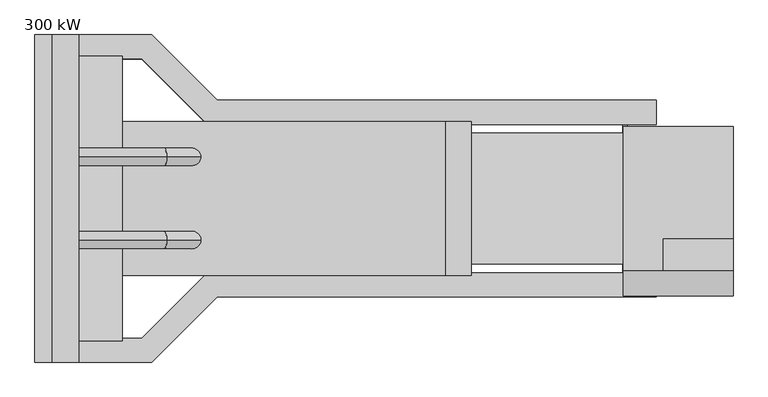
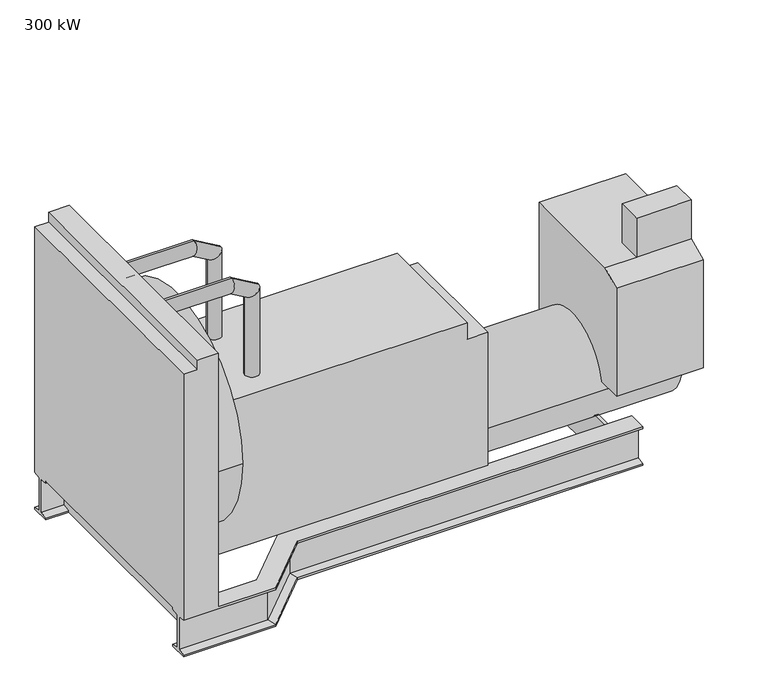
"""IFC4 building model written with IfcOpenShell, lengths in millimetres: proxy geometry, M_柴油機緊急發電機 : 300 kW."""

from ifc_helpers import new_model, si_unit, frame, origin, place, context, project, spatial, circle_curve, ellipse_curve, source, transform, mapped, element, save
from ifc_brep_helpers import plane_surface, cylinder_surface, advanced_brep


def proxy_300_kw_5f2c5fbb(model_context):
    return source(origin(), model_context, "Body", "AdvancedBrep", [
        advanced_brep(
        [(-1770.0, 830.5, 0.0), (-1770.0, 708.6933333, 0.0), (-1770.0, 708.6933333, 12.7), (-1770.0, 758.4841667, 21.4794673), (-1770.0, 758.4841667, 242.0805327), (-1770.0, 708.6933333, 250.86), (-1770.0, 708.6933333, 263.56), (-1770.0, -708.6933333, 263.56), (-1770.0, -708.6933333, 250.86), (-1770.0, -758.4841667, 242.0805327), (-1770.0, -758.4841667, 21.4794673), (-1770.0, -708.6933333, 12.7), (-1770.0, -708.6933333, 0.0), (-1770.0, -830.5, 0.0), (-1770.0, -830.5, 12.7), (-1770.0, -780.7091667, 21.4794673), (-1770.0, -780.7091667, 242.0805327), (-1770.0, -830.5, 250.86), (-1770.0, -830.5, 1924.56), (-1770.0, 830.5, 1924.56), (-1770.0, 830.5, 250.86), (-1770.0, 780.7091667, 242.0805327), (-1770.0, 780.7091667, 21.4794673), (-1770.0, 830.5, 12.7), (-1177.7446633, 830.5, 0.0), (-845.5446633, 498.3, 0.0), (1380.1575, 498.3, 0.0), (1380.1575, 376.4933333, 0.0), (1233.762125, 376.4933333, 0.0), (1233.762125, -376.4933333, 0.0), (1380.1575, -376.4933333, 0.0), (1380.1575, -498.3, 0.0), (-845.5446633, -498.3, 0.0), (-1177.7446633, -830.5, 0.0), (-1623.604625, -708.6933333, 0.0), (-1623.604625, 708.6933333, 0.0), (1211.537125, -376.4933333, 0.0), (1211.537125, 376.4933333, 0.0), (414.721175, 376.4933333, 0.0), (414.721175, -376.4933333, 0.0), (-602.149666, 376.4933333, 0.0), (-602.149666, -376.4933333, 0.0), (392.496175, -376.4933333, 0.0), (392.496175, 376.4933333, 0.0), (-1228.1986367, 708.6933333, 0.0), (-1601.379625, 708.6933333, 0.0), (-1601.379625, -708.6933333, 0.0), (-1228.1986367, -708.6933333, 0.0), (-895.9986367, -376.4933333, 0.0), (-624.374666, -376.4933333, 0.0), (-624.374666, 376.4933333, 0.0), (-895.9986367, 376.4933333, 0.0), (-1623.604625, 708.6933333, 12.7), (-1228.1986367, 708.6933333, 12.7), (-1601.379625, 708.6933333, 12.7), (-1623.604625, 758.4841667, 21.4794673), (-1207.5745982, 758.4841667, 21.4794673), (-1601.379625, 758.4841667, 21.4794673), (-1623.604625, 758.4841667, 242.0805327), (-1207.5745982, 758.4841667, 242.0805327), (-1601.379625, 758.4841667, 242.0805327), (-1623.604625, 708.6933333, 250.86), (-1228.1986367, 708.6933333, 250.86), (-1601.379625, 708.6933333, 250.86), (-1623.604625, 708.6933333, 263.56), (-1228.1986367, 708.6933333, 263.56), (-1548.75, 708.6933333, 263.56), (-1601.379625, 708.6933333, 263.56), (1380.1575, 376.4933333, 263.56), (1380.1575, 498.3, 263.56), (-845.5446633, 498.3, 263.56), (-1177.7446633, 830.5, 263.56), (-1548.75, 830.5, 263.56), (-909.6742033, 390.1689, 263.56), (442.5, 390.1689, 263.56), (442.5, 376.4933333, 263.56), (-1177.7446633, 830.5, 250.86), (-1681.5, 830.5, 1924.56), (-1681.5, 830.5, 1991.0), (-1548.75, 830.5, 1991.0), (-1198.3687018, 780.7091667, 242.0805327), (-1198.3687018, 780.7091667, 21.4794673), (-1177.7446633, 830.5, 12.7), (-895.9986367, 376.4933333, 12.7), (-875.3745982, 426.2841667, 21.4794673), (-875.3745982, 426.2841667, 242.0805327), (-895.9986367, 376.4933333, 250.86), (-895.9986367, 376.4933333, 263.56), (-845.5446633, 498.3, 250.86), (-866.1687018, 448.5091667, 242.0805327), (-866.1687018, 448.5091667, 21.4794673), (-845.5446633, 498.3, 12.7), (1380.1575, 498.3, 12.7), (1380.1575, 448.5091667, 21.4794673), (1380.1575, 448.5091667, 242.0805327), (1380.1575, 498.3, 250.86), (1380.1575, 376.4933333, 250.86), (1380.1575, 426.2841667, 242.0805327), (1380.1575, 426.2841667, 21.4794673), (1380.1575, 376.4933333, 12.7), (-624.374666, 376.4933333, 12.7), (1233.762125, 376.4933333, 12.7), (-602.149666, 376.4933333, 12.7), (392.496175, 376.4933333, 12.7), (1211.537125, 376.4933333, 12.7), (414.721175, 376.4933333, 12.7), (-624.374666, 426.2841667, 21.4794673), (1233.762125, 426.2841667, 21.4794673), (-602.149666, 426.2841667, 21.4794673), (392.496175, 426.2841667, 21.4794673), (1211.537125, 426.2841667, 21.4794673), (414.721175, 426.2841667, 21.4794673), (-624.374666, 426.2841667, 242.0805327), (1233.762125, 426.2841667, 242.0805327), (-602.149666, 426.2841667, 242.0805327), (392.496175, 426.2841667, 242.0805327), (1211.537125, 426.2841667, 242.0805327), (414.721175, 426.2841667, 242.0805327), (-624.374666, 376.4933333, 250.86), (1233.762125, 376.4933333, 250.86), (-602.149666, 376.4933333, 250.86), (392.496175, 376.4933333, 250.86), (1211.537125, 376.4933333, 250.86), (414.721175, 376.4933333, 250.86), (-624.374666, -376.4933333, 250.86), (-602.149666, -376.4933333, 250.86), (-624.374666, -376.4933333, 12.7), (-624.374666, -426.2841667, 21.4794673), (-624.374666, -426.2841667, 242.0805327), (-602.149666, -426.2841667, 242.0805327), (-602.149666, -426.2841667, 21.4794673), (-602.149666, -376.4933333, 12.7), (-1177.7446633, -830.5, 12.7), (-1198.3687018, -780.7091667, 21.4794673), (-1198.3687018, -780.7091667, 242.0805327), (-1177.7446633, -830.5, 250.86), (-1177.7446633, -830.5, 263.56), (-1548.75, -830.5, 263.56), (-1548.75, -830.5, 1991.0), (-1681.5, -830.5, 1991.0), (-1681.5, -830.5, 1924.56), (-845.5446633, -498.3, 263.56), (1380.1575, -498.3, 263.56), (1380.1575, -376.4933333, 263.56), (442.5, -376.4933333, 263.56), (442.5, -390.1689, 263.56), (-909.6742033, -390.1689, 263.56), (-1228.1986367, -708.6933333, 263.56), (-1548.75, -708.6933333, 263.56), (-1623.604625, -708.6933333, 263.56), (-1623.604625, -708.6933333, 250.86), (-1228.1986367, -708.6933333, 250.86), (-1601.379625, -708.6933333, 250.86), (-1601.379625, -708.6933333, 263.56), (-1623.604625, -758.4841667, 242.0805327), (-1207.5745982, -758.4841667, 242.0805327), (-1601.379625, -758.4841667, 242.0805327), (-1623.604625, -758.4841667, 21.4794673), (-1207.5745982, -758.4841667, 21.4794673), (-1601.379625, -758.4841667, 21.4794673), (-1623.604625, -708.6933333, 12.7), (-1228.1986367, -708.6933333, 12.7), (-1601.379625, -708.6933333, 12.7), (-845.5446633, -498.3, 12.7), (-866.1687018, -448.5091667, 21.4794673), (-866.1687018, -448.5091667, 242.0805327), (-845.5446633, -498.3, 250.86), (-895.9986367, -376.4933333, 263.56), (-895.9986367, -376.4933333, 250.86), (-875.3745982, -426.2841667, 242.0805327), (-875.3745982, -426.2841667, 21.4794673), (-895.9986367, -376.4933333, 12.7), (1380.1575, -498.3, 250.86), (1380.1575, -448.5091667, 242.0805327), (1380.1575, -448.5091667, 21.4794673), (1380.1575, -498.3, 12.7), (1380.1575, -376.4933333, 12.7), (1380.1575, -426.2841667, 21.4794673), (1380.1575, -426.2841667, 242.0805327), (1380.1575, -376.4933333, 250.86), (1233.762125, -376.4933333, 250.86), (1211.537125, -376.4933333, 250.86), (414.721175, -376.4933333, 250.86), (392.496175, -376.4933333, 250.86), (392.496175, -426.2841667, 242.0805327), (1233.762125, -426.2841667, 242.0805327), (1211.537125, -426.2841667, 242.0805327), (414.721175, -426.2841667, 242.0805327), (392.496175, -426.2841667, 21.4794673), (1233.762125, -426.2841667, 21.4794673), (1211.537125, -426.2841667, 21.4794673), (414.721175, -426.2841667, 21.4794673), (392.496175, -376.4933333, 12.7), (1233.762125, -376.4933333, 12.7), (1211.537125, -376.4933333, 12.7), (414.721175, -376.4933333, 12.7), (1211.537125, 252.1760843, 250.86), (1233.762125, 252.1760843, 250.86), (1233.762125, -252.1760843, 250.86), (1211.537125, -252.1760843, 250.86), (-1548.75, 722.535, 1094.06), (-1548.75, -722.535, 1094.06), (-1548.75, -210.691206, 1968.8533333), (-1548.75, -210.691206, 1880.2666667), (-1548.75, 210.691206, 1880.2666667), (-1548.75, 210.691206, 1968.8533333), (-1327.5, 722.535, 1094.06), (-1327.5, -722.535, 1094.06), (-1327.5, -390.1689, 485.9275673), (-1327.5, -390.1689, 1281.31), (-1327.5, 390.1689, 1281.31), (-1327.5, 390.1689, 485.9275673), (309.75, 390.1689, 1281.31), (309.75, -390.1689, 1281.31), (-1017.8859073, -210.691206, 1281.31), (-929.2992407, -210.691206, 1281.31), (-929.2992407, 210.691206, 1281.31), (-1017.8859073, 210.691206, 1281.31), (-1327.5, -390.1689, 263.56), (-1327.5, 390.1689, 263.56), (442.5, 262.5342597, 263.56), (442.5, -262.5342597, 263.56), (309.75, 390.1689, 1169.3575), (442.5, 390.1689, 1169.3575), (442.5, -390.1689, 1169.3575), (309.75, -390.1689, 1169.3575), (442.5, -332.2, 467.11), (442.5, 332.2, 467.11), (1730.175, -332.2, 467.11), (1730.175, 332.2, 467.11), (1730.175, 326.3230851, 529.32), (1730.175, -326.3230851, 529.32), (1212.45, -326.3230851, 529.32), (1212.45, 326.3230851, 529.32), (1770.0, 365.42, 1326.6), (1212.45, 365.42, 1326.6), (1212.45, -365.42, 1326.6), (1416.220288, -365.42, 1326.6), (1416.220288, -204.3533333, 1326.6), (1770.0, -204.3533333, 1326.6), (1212.45, 365.42, 529.32), (1770.0, 365.42, 529.32), (1770.0, -495.595, 529.32), (1212.45, -495.595, 529.32), (1212.45, -495.595, 1263.1094103), (1770.0, -204.3533333, 1592.36), (1770.0, -365.42, 1592.36), (1770.0, -365.42, 1326.6), (1770.0, -495.595, 1263.1094103), (1416.220288, -204.3533333, 1592.36), (1416.220288, -365.42, 1592.36), (-1101.4361754, -210.691206, 1968.8533333), (-1125.1729011, -210.691206, 1880.2666667), (-929.2992407, -210.691206, 1869.4700278), (-1017.8859073, -210.691206, 1818.3244919), (-1125.1729011, 210.691206, 1880.2666667), (-1101.4361754, 210.691206, 1968.8533333), (-1017.8859073, 210.691206, 1818.3244919), (-929.2992407, 210.691206, 1869.4700278)],
        [
            (0, 1),
            (1, 2),
            (2, 3),
            (3, 4),
            (4, 5),
            (5, 6),
            (6, 7),
            (7, 8),
            (8, 9),
            (9, 10),
            (10, 11),
            (11, 12),
            (12, 13),
            (13, 14),
            (14, 15),
            (15, 16),
            (16, 17),
            (17, 18),
            (18, 19),
            (19, 20),
            (20, 21),
            (21, 22),
            (22, 23),
            (23, 0),
            (0, 24),
            (24, 25),
            (25, 26),
            (26, 27),
            (27, 28),
            (28, 29),
            (29, 30),
            (30, 31),
            (31, 32),
            (32, 33),
            (33, 13),
            (12, 34),
            (34, 35),
            (35, 1),
            (36, 37),
            (37, 38),
            (38, 39),
            (39, 36),
            (40, 41),
            (41, 42),
            (42, 43),
            (43, 40),
            (44, 45),
            (45, 46),
            (46, 47),
            (47, 48),
            (48, 49),
            (49, 50),
            (50, 51),
            (51, 44),
            (35, 52),
            (52, 2),
            (44, 53),
            (53, 54),
            (54, 45),
            (52, 55),
            (55, 3),
            (53, 56),
            (56, 57),
            (57, 54),
            (55, 58),
            (58, 4),
            (56, 59),
            (59, 60),
            (60, 57),
            (58, 61),
            (61, 5),
            (59, 62),
            (62, 63),
            (63, 60),
            (61, 64),
            (64, 6),
            (62, 65),
            (65, 66),
            (66, 67),
            (67, 63),
            (68, 69),
            (69, 70),
            (70, 71),
            (71, 72),
            (72, 66),
            (65, 73),
            (73, 74),
            (74, 75),
            (75, 68),
            (71, 76),
            (76, 20),
            (19, 77),
            (77, 78),
            (78, 79),
            (79, 72),
            (76, 80),
            (80, 21),
            (80, 81),
            (81, 22),
            (81, 82),
            (82, 23),
            (82, 24),
            (51, 83),
            (83, 53),
            (83, 84),
            (84, 56),
            (84, 85),
            (85, 59),
            (85, 86),
            (86, 62),
            (86, 87),
            (87, 73),
            (70, 88),
            (88, 76),
            (88, 89),
            (89, 80),
            (89, 90),
            (90, 81),
            (90, 91),
            (91, 82),
            (91, 25),
            (26, 92),
            (92, 93),
            (93, 94),
            (94, 95),
            (95, 69),
            (68, 96),
            (96, 97),
            (97, 98),
            (98, 99),
            (99, 27),
            (50, 100),
            (100, 83),
            (99, 101),
            (101, 28),
            (102, 40),
            (43, 103),
            (103, 102),
            (37, 104),
            (104, 105),
            (105, 38),
            (100, 106),
            (106, 84),
            (98, 107),
            (107, 101),
            (108, 102),
            (103, 109),
            (109, 108),
            (104, 110),
            (110, 111),
            (111, 105),
            (106, 112),
            (112, 85),
            (97, 113),
            (113, 107),
            (114, 108),
            (109, 115),
            (115, 114),
            (110, 116),
            (116, 117),
            (117, 111),
            (112, 118),
            (118, 86),
            (96, 119),
            (119, 113),
            (120, 114),
            (115, 121),
            (121, 120),
            (116, 122),
            (122, 123),
            (123, 117),
            (118, 120),
            (121, 123),
            (122, 119),
            (75, 87),
            (95, 88),
            (94, 89),
            (93, 90),
            (92, 91),
            (118, 124),
            (124, 125),
            (125, 120),
            (49, 126),
            (126, 127),
            (127, 128),
            (128, 124),
            (125, 129),
            (129, 130),
            (130, 131),
            (131, 41),
            (33, 132),
            (132, 14),
            (132, 133),
            (133, 15),
            (133, 134),
            (134, 16),
            (134, 135),
            (135, 17),
            (135, 136),
            (136, 137),
            (137, 138),
            (138, 139),
            (139, 140),
            (140, 18),
            (136, 141),
            (141, 142),
            (142, 143),
            (143, 144),
            (144, 145),
            (145, 146),
            (146, 147),
            (147, 148),
            (148, 137),
            (7, 149),
            (149, 150),
            (150, 8),
            (147, 151),
            (151, 152),
            (152, 153),
            (153, 148),
            (150, 154),
            (154, 9),
            (151, 155),
            (155, 156),
            (156, 152),
            (154, 157),
            (157, 10),
            (155, 158),
            (158, 159),
            (159, 156),
            (157, 160),
            (160, 11),
            (158, 161),
            (161, 162),
            (162, 159),
            (160, 34),
            (161, 47),
            (46, 162),
            (32, 163),
            (163, 132),
            (163, 164),
            (164, 133),
            (164, 165),
            (165, 134),
            (165, 166),
            (166, 135),
            (166, 141),
            (146, 167),
            (167, 168),
            (168, 151),
            (168, 169),
            (169, 155),
            (169, 170),
            (170, 158),
            (170, 171),
            (171, 161),
            (171, 48),
            (142, 172),
            (172, 173),
            (173, 174),
            (174, 175),
            (175, 31),
            (30, 176),
            (176, 177),
            (177, 178),
            (178, 179),
            (179, 143),
            (175, 163),
            (174, 164),
            (173, 165),
            (172, 166),
            (167, 144),
            (179, 180),
            (180, 181),
            (181, 182),
            (182, 183),
            (183, 125),
            (124, 168),
            (183, 184),
            (184, 129),
            (128, 169),
            (178, 185),
            (185, 180),
            (181, 186),
            (186, 187),
            (187, 182),
            (184, 188),
            (188, 130),
            (127, 170),
            (177, 189),
            (189, 185),
            (186, 190),
            (190, 191),
            (191, 187),
            (188, 192),
            (192, 131),
            (126, 171),
            (176, 193),
            (193, 189),
            (190, 194),
            (194, 195),
            (195, 191),
            (192, 42),
            (29, 193),
            (194, 36),
            (39, 195),
            (122, 196),
            (196, 197),
            (197, 119),
            (180, 198),
            (198, 199),
            (199, 181),
            (199, 196, circle_curve(frame((1211.537125, 0.0, 467.11), z_axis=(1.0, 0.0, 0.0), x_axis=(0.0, 1.0, 0.0)), 332.2)),
            (197, 198, circle_curve(frame((1233.762125, 0.0, 467.11), z_axis=(-1.0, 0.0, 0.0), x_axis=(0.0, 1.0, 0.0)), 332.2)),
            (121, 183),
            (182, 123),
            (140, 77),
            (64, 149),
            (66, 148),
            (153, 67),
            (79, 138),
            (200, 201, circle_curve(frame((-1548.75, 0.0, 1094.06), z_axis=(-1.0, 0.0, 0.0), x_axis=(0.0, 1.0, 0.0)), 722.535)),
            (201, 200, circle_curve(frame((-1548.75, 0.0, 1094.06), z_axis=(-1.0, 0.0, 0.0), x_axis=(0.0, 1.0, 0.0)), 722.535)),
            (202, 203, circle_curve(frame((-1548.75, -210.691206, 1924.56), z_axis=(-1.0, 0.0, 0.0), x_axis=(0.0, 0.0, -1.0)), 44.2933333)),
            (203, 202, circle_curve(frame((-1548.75, -210.691206, 1924.56), z_axis=(-1.0, 0.0, 0.0), x_axis=(0.0, 0.0, -1.0)), 44.2933333)),
            (204, 205, circle_curve(frame((-1548.75, 210.691206, 1924.56), z_axis=(-1.0, 0.0, 0.0), x_axis=(0.0, 0.0, 1.0)), 44.2933333)),
            (205, 204, circle_curve(frame((-1548.75, 210.691206, 1924.56), z_axis=(-1.0, 0.0, 0.0), x_axis=(0.0, 0.0, 1.0)), 44.2933333)),
            (78, 139),
            (206, 207, circle_curve(frame((-1327.5, 0.0, 1094.06), z_axis=(1.0, 0.0, 0.0), x_axis=(0.0, 1.0, 0.0)), 722.535)),
            (207, 208, circle_curve(frame((-1327.5, 0.0, 1094.06), z_axis=(1.0, 0.0, 0.0), x_axis=(0.0, 1.0, 0.0)), 722.535)),
            (208, 209),
            (209, 210),
            (210, 211),
            (211, 206, circle_curve(frame((-1327.5, 0.0, 1094.06), z_axis=(1.0, 0.0, 0.0), x_axis=(0.0, 1.0, 0.0)), 722.535)),
            (207, 201),
            (200, 206),
            (211, 208, circle_curve(frame((-1327.5, 0.0, 1094.06), z_axis=(-1.0, 0.0, 0.0), x_axis=(0.0, 1.0, 0.0)), 722.535)),
            (212, 210),
            (209, 213),
            (213, 212),
            (214, 215, circle_curve(frame((-973.592574, -210.691206, 1281.31), z_axis=(0.0, 0.0, -1.0), x_axis=(-1.0, 0.0, 0.0)), 44.2933333)),
            (215, 214, circle_curve(frame((-973.592574, -210.691206, 1281.31), z_axis=(0.0, 0.0, -1.0), x_axis=(-1.0, 0.0, 0.0)), 44.2933333)),
            (216, 217, circle_curve(frame((-973.592574, 210.691206, 1281.31), z_axis=(0.0, 0.0, -1.0), x_axis=(1.0, 0.0, 0.0)), 44.2933333)),
            (217, 216, circle_curve(frame((-973.592574, 210.691206, 1281.31), z_axis=(0.0, 0.0, -1.0), x_axis=(1.0, 0.0, 0.0)), 44.2933333)),
            (218, 219),
            (219, 73),
            (75, 220),
            (220, 221),
            (221, 144),
            (146, 218),
            (212, 222),
            (222, 223),
            (223, 74),
            (219, 211),
            (218, 208),
            (145, 224),
            (224, 225),
            (225, 213),
            (225, 222),
            (224, 223),
            (221, 226, circle_curve(frame((442.5, 0.0, 467.11), z_axis=(-1.0, 0.0, 0.0), x_axis=(0.0, 1.0, 0.0)), 332.2)),
            (226, 227, circle_curve(frame((442.5, 0.0, 467.11), z_axis=(-1.0, 0.0, 0.0), x_axis=(0.0, 1.0, 0.0)), 332.2)),
            (227, 220, circle_curve(frame((442.5, 0.0, 467.11), z_axis=(-1.0, 0.0, 0.0), x_axis=(0.0, 1.0, 0.0)), 332.2)),
            (228, 229, circle_curve(frame((1730.175, 0.0, 467.11), z_axis=(1.0, 0.0, 0.0), x_axis=(0.0, 1.0, 0.0)), 332.2)),
            (229, 230, circle_curve(frame((1730.175, 0.0, 467.11), z_axis=(1.0, 0.0, 0.0), x_axis=(0.0, 1.0, 0.0)), 332.2)),
            (230, 231),
            (231, 228, circle_curve(frame((1730.175, 0.0, 467.11), z_axis=(1.0, 0.0, 0.0), x_axis=(0.0, 1.0, 0.0)), 332.2)),
            (220, 221, circle_curve(frame((442.5, 0.0, 467.11), z_axis=(-1.0, 0.0, 0.0), x_axis=(0.0, 1.0, 0.0)), 332.2)),
            (228, 226),
            (227, 229),
            (231, 232),
            (232, 233, circle_curve(frame((1212.45, 0.0, 467.11), z_axis=(-1.0, 0.0, 0.0), x_axis=(0.0, 1.0, 0.0)), 332.2)),
            (233, 230),
            (234, 235),
            (235, 236),
            (236, 237),
            (237, 238),
            (238, 239),
            (239, 234),
            (240, 241),
            (241, 242),
            (242, 243),
            (243, 232),
            (233, 240),
            (234, 241),
            (240, 235),
            (243, 244),
            (244, 236),
            (239, 245),
            (245, 246),
            (246, 247),
            (247, 248),
            (248, 242),
            (247, 237),
            (244, 248),
            (245, 249),
            (249, 250),
            (250, 246),
            (238, 249),
            (237, 250),
            (202, 251),
            (251, 252, ellipse_curve(frame((-1113.3045382, -210.691206, 1924.56), z_axis=(-0.9659258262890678, 0.0, 0.25881904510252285), x_axis=(-0.2588190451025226, 0.0, -0.9659258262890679)), 45.855833, 44.2933333)),
            (252, 203),
            (252, 251, ellipse_curve(frame((-1113.3045382, -210.691206, 1924.56), z_axis=(-0.9659258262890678, 0.0, 0.25881904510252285), x_axis=(-0.2588190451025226, 0.0, -0.9659258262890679)), 45.855833, 44.2933333)),
            (251, 253),
            (253, 254, ellipse_curve(frame((-973.592574, -210.691206, 1843.8972598), z_axis=(-0.499999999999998, 0.0, 0.8660254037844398), x_axis=(-0.8660254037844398, 0.0, -0.499999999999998)), 51.1455358, 44.2933333)),
            (254, 252),
            (254, 253, ellipse_curve(frame((-973.592574, -210.691206, 1843.8972598), z_axis=(-0.499999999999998, 0.0, 0.8660254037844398), x_axis=(-0.8660254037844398, 0.0, -0.499999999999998)), 51.1455358, 44.2933333)),
            (253, 215),
            (214, 254),
            (204, 255),
            (255, 256, ellipse_curve(frame((-1113.3045382, 210.691206, 1924.56), z_axis=(-0.9659258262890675, 0.0, 0.25881904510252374), x_axis=(-0.2588190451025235, 0.0, -0.9659258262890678)), 45.855833, 44.2933333)),
            (256, 205),
            (256, 255, ellipse_curve(frame((-1113.3045382, 210.691206, 1924.56), z_axis=(-0.9659258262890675, 0.0, 0.25881904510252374), x_axis=(-0.2588190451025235, 0.0, -0.9659258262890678)), 45.855833, 44.2933333)),
            (255, 257),
            (257, 258, ellipse_curve(frame((-973.592574, 210.691206, 1843.8972598), z_axis=(-0.49999999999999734, 0.0, 0.8660254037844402), x_axis=(-0.8660254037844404, 0.0, -0.4999999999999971)), 51.1455358, 44.2933333)),
            (258, 256),
            (258, 257, ellipse_curve(frame((-973.592574, 210.691206, 1843.8972598), z_axis=(-0.49999999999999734, 0.0, 0.8660254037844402), x_axis=(-0.8660254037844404, 0.0, -0.4999999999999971)), 51.1455358, 44.2933333)),
            (257, 217),
            (216, 258),
        ],
        [
            plane_surface(frame((-1770.0, 769.5966667, 0.0), z_axis=(-1.0, 0.0, 0.0), x_axis=(0.0, 0.0, 1.0))),
            plane_surface(frame((-1770.0, 769.5966667, 0.0), z_axis=(0.0, 0.0, -1.0), x_axis=(1.0, 0.0, 0.0))),
            plane_surface(frame((-1770.0, 708.6933333, 0.0), z_axis=(0.0, -1.0, 0.0), x_axis=(1.0, 0.0, 0.0))),
            plane_surface(frame((-1770.0, 708.6933333, 12.7), z_axis=(0.0, -0.17364817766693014, 0.9848077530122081), x_axis=(1.0, 0.0, 0.0))),
            plane_surface(frame((-1770.0, 758.4841667, 21.4794673), z_axis=(0.0, -1.0, 0.0), x_axis=(1.0, 0.0, 0.0))),
            plane_surface(frame((-1770.0, 758.4841667, 242.0805327), z_axis=(0.0, -0.17364817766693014, -0.9848077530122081), x_axis=(1.0, 0.0, 0.0))),
            plane_surface(frame((-1770.0, 708.6933333, 250.86), z_axis=(0.0, -1.0, 0.0), x_axis=(1.0, 0.0, 0.0))),
            plane_surface(frame((-1770.0, 769.5966667, 263.56), z_axis=(0.0, 0.0, 1.0), x_axis=(1.0, 0.0, 0.0))),
            plane_surface(frame((-1770.0, 830.5, 263.56), z_axis=(0.0, 1.0, 0.0), x_axis=(1.0, 0.0, 0.0))),
            plane_surface(frame((-1770.0, 830.5, 250.86), z_axis=(0.0, 0.17364817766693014, -0.9848077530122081), x_axis=(1.0, 0.0, 0.0))),
            plane_surface(frame((-1770.0, 780.7091667, 242.0805327), z_axis=(0.0, 1.0, 0.0), x_axis=(1.0, 0.0, 0.0))),
            plane_surface(frame((-1770.0, 780.7091667, 21.4794673), z_axis=(0.0, 0.17364817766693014, 0.9848077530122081), x_axis=(1.0, 0.0, 0.0))),
            plane_surface(frame((-1770.0, 830.5, 12.7), z_axis=(0.0, 1.0, 0.0), x_axis=(1.0, 0.0, 0.0))),
            plane_surface(frame((-1228.1986367, 708.6933333, 0.0), z_axis=(-0.7071067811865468, -0.7071067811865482, 0.0), x_axis=(0.7071067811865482, -0.7071067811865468, 0.0))),
            plane_surface(frame((-1228.1986367, 708.6933333, 12.7), z_axis=(-0.12278780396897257, -0.12278780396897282, 0.9848077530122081), x_axis=(0.7071067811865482, -0.7071067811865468, 0.0))),
            plane_surface(frame((-1207.5745982, 758.4841667, 21.4794673), z_axis=(-0.7071067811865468, -0.7071067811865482, 0.0), x_axis=(0.7071067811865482, -0.7071067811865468, 0.0))),
            plane_surface(frame((-1207.5745982, 758.4841667, 242.0805327), z_axis=(-0.12278780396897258, -0.1227878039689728, -0.9848077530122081), x_axis=(0.7071067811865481, -0.7071067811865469, 0.0))),
            plane_surface(frame((-1228.1986367, 708.6933333, 250.86), z_axis=(-0.7071067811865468, -0.7071067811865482, 0.0), x_axis=(0.7071067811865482, -0.7071067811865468, 0.0))),
            plane_surface(frame((-1177.7446633, 830.5, 263.56), z_axis=(0.7071067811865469, 0.7071067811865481, 0.0), x_axis=(0.7071067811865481, -0.7071067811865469, 0.0))),
            plane_surface(frame((-1177.7446633, 830.5, 250.86), z_axis=(0.12278780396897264, 0.12278780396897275, -0.9848077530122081), x_axis=(0.7071067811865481, -0.7071067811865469, 0.0))),
            plane_surface(frame((-1198.3687018, 780.7091667, 242.0805327), z_axis=(0.7071067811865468, 0.7071067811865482, 0.0), x_axis=(0.7071067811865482, -0.7071067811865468, 0.0))),
            plane_surface(frame((-1198.3687018, 780.7091667, 21.4794673), z_axis=(0.12278780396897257, 0.12278780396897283, 0.9848077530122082), x_axis=(0.7071067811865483, -0.7071067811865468, 0.0))),
            plane_surface(frame((-1177.7446633, 830.5, 12.7), z_axis=(0.7071067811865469, 0.7071067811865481, 0.0), x_axis=(0.7071067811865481, -0.7071067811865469, 0.0))),
            plane_surface(frame((1380.1575, 437.3966667, 0.0), z_axis=(1.0, 0.0, 0.0), x_axis=(0.0, 0.0, 1.0))),
            plane_surface(frame((-895.9986367, 376.4933333, 0.0), z_axis=(0.0, -1.0, 0.0), x_axis=(1.0, 0.0, 0.0))),
            plane_surface(frame((-895.9986367, 376.4933333, 12.7), z_axis=(0.0, -0.17364817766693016, 0.9848077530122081), x_axis=(1.0, 0.0, 0.0))),
            plane_surface(frame((-875.3745982, 426.2841667, 21.4794673), z_axis=(0.0, -1.0, 0.0), x_axis=(1.0, 0.0, 0.0))),
            plane_surface(frame((-875.3745982, 426.2841667, 242.0805327), z_axis=(0.0, -0.17364817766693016, -0.9848077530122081), x_axis=(1.0, 0.0, 0.0))),
            plane_surface(frame((-895.9986367, 376.4933333, 250.86), z_axis=(0.0, -1.0, 0.0), x_axis=(1.0, 0.0, 0.0))),
            plane_surface(frame((-845.5446633, 498.3, 263.56), z_axis=(0.0, 1.0, 0.0), x_axis=(1.0, 0.0, 0.0))),
            plane_surface(frame((-845.5446633, 498.3, 250.86), z_axis=(0.0, 0.17364817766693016, -0.9848077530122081), x_axis=(1.0, 0.0, 0.0))),
            plane_surface(frame((-866.1687018, 448.5091667, 242.0805327), z_axis=(0.0, 1.0, 0.0), x_axis=(1.0, 0.0, 0.0))),
            plane_surface(frame((-866.1687018, 448.5091667, 21.4794673), z_axis=(0.0, 0.17364817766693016, 0.9848077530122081), x_axis=(1.0, 0.0, 0.0))),
            plane_surface(frame((-845.5446633, 498.3, 12.7), z_axis=(0.0, 1.0, 0.0), x_axis=(1.0, 0.0, 0.0))),
            plane_surface(frame((-602.149666, -437.3966667, 250.86), z_axis=(0.0, 0.0, 1.0), x_axis=(0.0, 1.0, 0.0))),
            plane_surface(frame((-624.374666, -437.3966667, 250.86), z_axis=(-1.0, 0.0, 0.0), x_axis=(0.0, 1.0, 0.0))),
            plane_surface(frame((-602.149666, -437.3966667, 0.0), z_axis=(1.0, 0.0, 0.0), x_axis=(0.0, 1.0, 0.0))),
            plane_surface(frame((-1770.0, -830.5, 0.0), z_axis=(0.0, -1.0, 0.0), x_axis=(1.0, 0.0, 0.0))),
            plane_surface(frame((-1770.0, -830.5, 12.7), z_axis=(0.0, -0.17364817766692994, 0.9848077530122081), x_axis=(1.0, 0.0, 0.0))),
            plane_surface(frame((-1770.0, -780.7091667, 21.4794673), z_axis=(0.0, -1.0, 0.0), x_axis=(1.0, 0.0, 0.0))),
            plane_surface(frame((-1770.0, -780.7091667, 242.0805327), z_axis=(0.0, -0.17364817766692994, -0.9848077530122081), x_axis=(1.0, 0.0, 0.0))),
            plane_surface(frame((-1770.0, -830.5, 250.86), z_axis=(0.0, -1.0, 0.0), x_axis=(1.0, 0.0, 0.0))),
            plane_surface(frame((-1770.0, -769.5966667, 263.56), z_axis=(0.0, 0.0, 1.0), x_axis=(1.0, 0.0, 0.0))),
            plane_surface(frame((-1770.0, -708.6933333, 263.56), z_axis=(0.0, 1.0, 0.0), x_axis=(1.0, 0.0, 0.0))),
            plane_surface(frame((-1770.0, -708.6933333, 250.86), z_axis=(0.0, 0.17364817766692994, -0.9848077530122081), x_axis=(1.0, 0.0, 0.0))),
            plane_surface(frame((-1770.0, -758.4841667, 242.0805327), z_axis=(0.0, 1.0, 0.0), x_axis=(1.0, 0.0, 0.0))),
            plane_surface(frame((-1770.0, -758.4841667, 21.4794673), z_axis=(0.0, 0.17364817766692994, 0.9848077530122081), x_axis=(1.0, 0.0, 0.0))),
            plane_surface(frame((-1770.0, -708.6933333, 12.7), z_axis=(0.0, 1.0, 0.0), x_axis=(1.0, 0.0, 0.0))),
            plane_surface(frame((-1177.7446633, -830.5, 0.0), z_axis=(0.7071067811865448, -0.7071067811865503, 0.0), x_axis=(0.7071067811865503, 0.7071067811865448, 0.0))),
            plane_surface(frame((-1177.7446633, -830.5, 12.7), z_axis=(0.12278780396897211, -0.12278780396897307, 0.9848077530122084), x_axis=(0.7071067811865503, 0.7071067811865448, 0.0))),
            plane_surface(frame((-1198.3687018, -780.7091667, 21.4794673), z_axis=(0.7071067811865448, -0.7071067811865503, 0.0), x_axis=(0.7071067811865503, 0.7071067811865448, 0.0))),
            plane_surface(frame((-1198.3687018, -780.7091667, 242.0805327), z_axis=(0.12278780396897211, -0.12278780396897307, -0.9848077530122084), x_axis=(0.7071067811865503, 0.7071067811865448, 0.0))),
            plane_surface(frame((-1177.7446633, -830.5, 250.86), z_axis=(0.7071067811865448, -0.7071067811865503, 0.0), x_axis=(0.7071067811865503, 0.7071067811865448, 0.0))),
            plane_surface(frame((-1228.1986367, -708.6933333, 263.56), z_axis=(-0.7071067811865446, 0.7071067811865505, 0.0), x_axis=(0.7071067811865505, 0.7071067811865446, 0.0))),
            plane_surface(frame((-1228.1986367, -708.6933333, 250.86), z_axis=(-0.12278780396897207, 0.12278780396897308, -0.9848077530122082), x_axis=(0.7071067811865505, 0.7071067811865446, 0.0))),
            plane_surface(frame((-1207.5745982, -758.4841667, 242.0805327), z_axis=(-0.7071067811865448, 0.7071067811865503, 0.0), x_axis=(0.7071067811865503, 0.7071067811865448, 0.0))),
            plane_surface(frame((-1207.5745982, -758.4841667, 21.4794673), z_axis=(-0.12278780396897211, 0.12278780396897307, 0.9848077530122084), x_axis=(0.7071067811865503, 0.7071067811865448, 0.0))),
            plane_surface(frame((-1228.1986367, -708.6933333, 12.7), z_axis=(-0.7071067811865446, 0.7071067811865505, 0.0), x_axis=(0.7071067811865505, 0.7071067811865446, 0.0))),
            plane_surface(frame((1380.1575, -437.3966667, 0.0), z_axis=(1.0, 0.0, 0.0), x_axis=(0.0, 0.0, 1.0))),
            plane_surface(frame((-845.5446633, -498.3, 0.0), z_axis=(0.0, -1.0, 0.0), x_axis=(1.0, 0.0, 0.0))),
            plane_surface(frame((-845.5446633, -498.3, 12.7), z_axis=(0.0, -0.17364817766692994, 0.9848077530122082), x_axis=(1.0, 0.0, 0.0))),
            plane_surface(frame((-866.1687018, -448.5091667, 21.4794673), z_axis=(0.0, -1.0, 0.0), x_axis=(1.0, 0.0, 0.0))),
            plane_surface(frame((-866.1687018, -448.5091667, 242.0805327), z_axis=(0.0, -0.17364817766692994, -0.9848077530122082), x_axis=(1.0, 0.0, 0.0))),
            plane_surface(frame((-845.5446633, -498.3, 250.86), z_axis=(0.0, -1.0, 0.0), x_axis=(1.0, 0.0, 0.0))),
            plane_surface(frame((-895.9986367, -376.4933333, 263.56), z_axis=(0.0, 1.0, 0.0), x_axis=(1.0, 0.0, 0.0))),
            plane_surface(frame((-895.9986367, -376.4933333, 250.86), z_axis=(0.0, 0.17364817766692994, -0.9848077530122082), x_axis=(1.0, 0.0, 0.0))),
            plane_surface(frame((-875.3745982, -426.2841667, 242.0805327), z_axis=(0.0, 1.0, 0.0), x_axis=(1.0, 0.0, 0.0))),
            plane_surface(frame((-875.3745982, -426.2841667, 21.4794673), z_axis=(0.0, 0.17364817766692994, 0.9848077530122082), x_axis=(1.0, 0.0, 0.0))),
            plane_surface(frame((-895.9986367, -376.4933333, 12.7), z_axis=(0.0, 1.0, 0.0), x_axis=(1.0, 0.0, 0.0))),
            plane_surface(frame((1233.762125, -437.3966667, 250.86), z_axis=(0.0, 0.0, 1.0), x_axis=(0.0, 1.0, 0.0))),
            plane_surface(frame((1211.537125, -437.3966667, 250.86), z_axis=(-1.0, 0.0, 0.0), x_axis=(0.0, 1.0, 0.0))),
            plane_surface(frame((1233.762125, -437.3966667, 0.0), z_axis=(1.0, 0.0, 0.0), x_axis=(0.0, 1.0, 0.0))),
            plane_surface(frame((414.721175, -437.3966667, 250.86), z_axis=(0.0, 0.0, 1.0), x_axis=(0.0, 1.0, 0.0))),
            plane_surface(frame((392.496175, -437.3966667, 250.86), z_axis=(-1.0, 0.0, 0.0), x_axis=(0.0, 1.0, 0.0))),
            plane_surface(frame((414.721175, -437.3966667, 0.0), z_axis=(1.0, 0.0, 0.0), x_axis=(0.0, 1.0, 0.0))),
            plane_surface(frame((-1770.0, 830.5, 1924.56), z_axis=(0.0, 0.0, 1.0), x_axis=(-1.0, 0.0, 0.0))),
            plane_surface(frame((-1770.0, 830.5, 263.56), z_axis=(0.0, 0.0, -1.0), x_axis=(1.0, 0.0, 0.0))),
            plane_surface(frame((-1548.75, -830.5, 1924.56), z_axis=(1.0, 0.0, 0.0), x_axis=(0.0, 0.0, -1.0))),
            plane_surface(frame((-1681.5, 830.5, 1991.0), z_axis=(0.0, 0.0, 1.0), x_axis=(-1.0, 0.0, 0.0))),
            plane_surface(frame((-1681.5, 830.5, 1991.0), z_axis=(-1.0, 0.0, 0.0), x_axis=(0.0, 0.0, -1.0))),
            plane_surface(frame((-1327.5, 722.535, 1094.06), z_axis=(1.0, 0.0, 0.0), x_axis=(0.0, 0.0, 1.0))),
            cylinder_surface(frame((-1548.75, 0.0, 1094.06), z_axis=(1.0, 0.0, 0.0), x_axis=(0.0, 1.0, 0.0)), 722.535),
            plane_surface(frame((-1327.5, 390.1689, 1281.31), z_axis=(0.0, 0.0, 1.0), x_axis=(-1.0, 0.0, 0.0))),
            plane_surface(frame((-1327.5, 390.1689, 263.56), z_axis=(0.0, 0.0, -1.0), x_axis=(1.0, 0.0, 0.0))),
            plane_surface(frame((309.75, 390.1689, 1281.31), z_axis=(0.0, 1.0, 0.0), x_axis=(0.0, 0.0, -1.0))),
            plane_surface(frame((-1327.5, 390.1689, 1281.31), z_axis=(-1.0, 0.0, 0.0), x_axis=(0.0, 0.0, -1.0))),
            plane_surface(frame((-1327.5, -390.1689, 1281.31), z_axis=(0.0, -1.0, 0.0), x_axis=(0.0, 0.0, -1.0))),
            plane_surface(frame((309.75, -390.1689, 1281.31), z_axis=(1.0, 0.0, 0.0), x_axis=(0.0, 0.0, -1.0))),
            plane_surface(frame((309.75, 390.1689, 1169.3575), z_axis=(0.0, 0.0, 1.0), x_axis=(-1.0, 0.0, 0.0))),
            plane_surface(frame((442.5, -390.1689, 1169.3575), z_axis=(1.0, 0.0, 0.0), x_axis=(0.0, 0.0, -1.0))),
            plane_surface(frame((1730.175, 332.2, 467.11), z_axis=(1.0, 0.0, 0.0), x_axis=(0.0, 0.0, 1.0))),
            plane_surface(frame((442.5, 332.2, 467.11), z_axis=(-1.0, 0.0, 0.0), x_axis=(0.0, 0.0, -1.0))),
            cylinder_surface(frame((442.5, 0.0, 467.11), z_axis=(1.0, 0.0, 0.0), x_axis=(0.0, 1.0, 0.0)), 332.2),
            plane_surface(frame((1212.45, 365.42, 1326.6), z_axis=(0.0, 0.0, 1.0), x_axis=(-1.0, 0.0, 0.0))),
            plane_surface(frame((1212.45, 365.42, 529.32), z_axis=(0.0, 0.0, -1.0), x_axis=(1.0, 0.0, 0.0))),
            plane_surface(frame((1770.0, 365.42, 1326.6), z_axis=(0.0, 1.0, 0.0), x_axis=(0.0, 0.0, -1.0))),
            plane_surface(frame((1212.45, 365.42, 1326.6), z_axis=(-1.0, 0.0, 0.0), x_axis=(0.0, 0.0, -1.0))),
            plane_surface(frame((1770.0, -365.42, 1326.6), z_axis=(1.0, 0.0, 0.0), x_axis=(0.0, 0.0, -1.0))),
            plane_surface(frame((1770.0, -365.42, 1326.6), z_axis=(0.0, -0.4383711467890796, 0.898794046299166), x_axis=(-1.0, 0.0, 0.0))),
            plane_surface(frame((1770.0, -495.595, 1263.1094103), z_axis=(0.0, -1.0, 0.0), x_axis=(-1.0, 0.0, 0.0))),
            plane_surface(frame((1416.220288, -204.3533333, 1592.36), z_axis=(0.0, 0.0, 1.0), x_axis=(-1.0, 0.0, 0.0))),
            plane_surface(frame((1770.0, -204.3533333, 1592.36), z_axis=(0.0, 1.0, 0.0), x_axis=(0.0, 0.0, -1.0))),
            plane_surface(frame((1416.220288, -204.3533333, 1592.36), z_axis=(-1.0, 0.0, 0.0), x_axis=(0.0, 0.0, -1.0))),
            plane_surface(frame((1416.220288, -365.42, 1592.36), z_axis=(0.0, -1.0, 0.0), x_axis=(0.0, 0.0, -1.0))),
            cylinder_surface(frame((-1548.75, -210.691206, 1924.56), z_axis=(-1.0, 0.0, 0.0), x_axis=(0.0, 0.0, -1.0)), 44.2933333),
            cylinder_surface(frame((-1113.3045382, -210.691206, 1924.56), z_axis=(-0.8660254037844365, 0.0, 0.5000000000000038), x_axis=(-0.5000000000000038, 0.0, -0.8660254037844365)), 44.2933333),
            cylinder_surface(frame((-973.592574, -210.691206, 1843.8972598), z_axis=(0.0, 0.0, 1.0), x_axis=(-1.0, 0.0, 0.0)), 44.2933333),
            cylinder_surface(frame((-1548.75, 210.691206, 1924.56), z_axis=(-1.0, 0.0, 0.0), x_axis=(0.0, 0.0, 1.0)), 44.2933333),
            cylinder_surface(frame((-1113.3045382, 210.691206, 1924.56), z_axis=(-0.8660254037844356, 0.0, 0.5000000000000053), x_axis=(0.5000000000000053, 0.0, 0.8660254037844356)), 44.2933333),
            cylinder_surface(frame((-973.592574, 210.691206, 1843.8972598), z_axis=(0.0, 0.0, 1.0), x_axis=(1.0, 0.0, 0.0)), 44.2933333),
            plane_surface(frame((-1623.604625, -769.5966667, 263.56), z_axis=(-1.0, 0.0, 0.0), x_axis=(0.0, 1.0, 0.0))),
            plane_surface(frame((-1601.379625, -769.5966667, 0.0), z_axis=(1.0, 0.0, 0.0), x_axis=(0.0, 1.0, 0.0))),
        ],
        [
            (0, [[1, 2, 3, 4, 5, 6, 7, 8, 9, 10, 11, 12, 13, 14, 15, 16, 17, 18, 19, 20, 21, 22, 23, 24]]),
            (1, [[-1, 25, 26, 27, 28, 29, 30, 31, 32, 33, 34, 35, -13, 36, 37, 38], [39, 40, 41, 42], [43, 44, 45, 46], [47, 48, 49, 50, 51, 52, 53, 54]]),
            (2, [[-2, -38, 55, 56]]),
            (2, [[57, 58, 59, -47]]),
            (3, [[-3, -56, 60, 61]]),
            (3, [[62, 63, 64, -58]]),
            (4, [[-4, -61, 65, 66]]),
            (4, [[67, 68, 69, -63]]),
            (5, [[-5, -66, 70, 71]]),
            (5, [[72, 73, 74, -68]]),
            (6, [[-6, -71, 75, 76]]),
            (6, [[77, 78, 79, 80, -73]]),
            (7, [[81, 82, 83, 84, 85, -78, 86, 87, 88, 89]]),
            (8, [[90, 91, -20, 92, 93, 94, 95, -84]]),
            (9, [[-21, -91, 96, 97]]),
            (10, [[-22, -97, 98, 99]]),
            (11, [[-23, -99, 100, 101]]),
            (12, [[-24, -101, 102, -25]]),
            (13, [[-54, 103, 104, -57]]),
            (14, [[-62, -104, 105, 106]]),
            (15, [[-67, -106, 107, 108]]),
            (16, [[-72, -108, 109, 110]]),
            (17, [[-77, -110, 111, 112, -86]]),
            (18, [[-83, 113, 114, -90]]),
            (19, [[-96, -114, 115, 116]]),
            (20, [[-98, -116, 117, 118]]),
            (21, [[-100, -118, 119, 120]]),
            (22, [[-26, -102, -120, 121]]),
            (23, [[-28, 122, 123, 124, 125, 126, -81, 127, 128, 129, 130, 131]]),
            (24, [[-103, -53, 132, 133]]),
            (24, [[-131, 134, 135, -29]]),
            (24, [[136, -46, 137, 138]]),
            (24, [[139, 140, 141, -40]]),
            (25, [[-105, -133, 142, 143]]),
            (25, [[-130, 144, 145, -134]]),
            (25, [[146, -138, 147, 148]]),
            (25, [[149, 150, 151, -140]]),
            (26, [[-107, -143, 152, 153]]),
            (26, [[-129, 154, 155, -144]]),
            (26, [[156, -148, 157, 158]]),
            (26, [[159, 160, 161, -150]]),
            (27, [[-109, -153, 162, 163]]),
            (27, [[-128, 164, 165, -154]]),
            (27, [[166, -158, 167, 168]]),
            (27, [[169, 170, 171, -160]]),
            (28, [[-111, -163, 172, -168, 173, -170, 174, -164, -127, -89, 175]]),
            (29, [[-82, -126, 176, -113]]),
            (30, [[-115, -176, -125, 177]]),
            (31, [[-117, -177, -124, 178]]),
            (32, [[-119, -178, -123, 179]]),
            (33, [[-27, -121, -179, -122]]),
            (34, [[-172, 180, 181, 182]]),
            (35, [[-132, -52, 183, 184, 185, 186, -180, -162, -152, -142]]),
            (36, [[-136, -146, -156, -166, -182, 187, 188, 189, 190, -43]]),
            (37, [[-14, -35, 191, 192]]),
            (38, [[-15, -192, 193, 194]]),
            (39, [[-16, -194, 195, 196]]),
            (40, [[-17, -196, 197, 198]]),
            (41, [[-198, 199, 200, 201, 202, 203, 204, -18]]),
            (42, [[205, 206, 207, 208, 209, 210, 211, 212, 213, -200]]),
            (43, [[-8, 214, 215, 216]]),
            (43, [[217, 218, 219, 220, -212]]),
            (44, [[-9, -216, 221, 222]]),
            (44, [[223, 224, 225, -218]]),
            (45, [[-10, -222, 226, 227]]),
            (45, [[228, 229, 230, -224]]),
            (46, [[-11, -227, 231, 232]]),
            (46, [[233, 234, 235, -229]]),
            (47, [[-12, -232, 236, -36]]),
            (47, [[237, -49, 238, -234]]),
            (48, [[-191, -34, 239, 240]]),
            (49, [[-193, -240, 241, 242]]),
            (50, [[-195, -242, 243, 244]]),
            (51, [[-197, -244, 245, 246]]),
            (52, [[-199, -246, 247, -205]]),
            (53, [[-217, -211, 248, 249, 250]]),
            (54, [[-223, -250, 251, 252]]),
            (55, [[-228, -252, 253, 254]]),
            (56, [[-233, -254, 255, 256]]),
            (57, [[-237, -256, 257, -50]]),
            (58, [[-207, 258, 259, 260, 261, 262, -32, 263, 264, 265, 266, 267]]),
            (59, [[-33, -262, 268, -239]]),
            (60, [[-241, -268, -261, 269]]),
            (61, [[-243, -269, -260, 270]]),
            (62, [[-245, -270, -259, 271]]),
            (63, [[-206, -247, -271, -258]]),
            (64, [[-249, 272, -208, -267, 273, 274, 275, 276, 277, -181, 278]]),
            (65, [[-187, -277, 279, 280]]),
            (65, [[-251, -278, -186, 281]]),
            (65, [[-266, 282, 283, -273]]),
            (65, [[284, 285, 286, -275]]),
            (66, [[-188, -280, 287, 288]]),
            (66, [[-253, -281, -185, 289]]),
            (66, [[-265, 290, 291, -282]]),
            (66, [[292, 293, 294, -285]]),
            (67, [[-189, -288, 295, 296]]),
            (67, [[-255, -289, -184, 297]]),
            (67, [[-264, 298, 299, -290]]),
            (67, [[300, 301, 302, -293]]),
            (68, [[-190, -296, 303, -44]]),
            (68, [[-257, -297, -183, -51]]),
            (68, [[-263, -31, 304, -298]]),
            (68, [[305, -42, 306, -301]]),
            (69, [[-174, 307, 308, 309]]),
            (69, [[-274, 310, 311, 312]]),
            (70, [[-39, -305, -300, -292, -284, -312, 313, -307, -169, -159, -149, -139]]),
            (71, [[-30, -135, -145, -155, -165, -309, 314, -310, -283, -291, -299, -304]]),
            (72, [[315, -276, 316, -173]]),
            (73, [[-45, -303, -295, -287, -279, -315, -167, -157, -147, -137]]),
            (74, [[-41, -141, -151, -161, -171, -316, -286, -294, -302, -306]]),
            (75, [[-19, -204, 317, -92]]),
            (76, [[-7, -76, 318, -214]]),
            (76, [[319, -220, 320, -79]]),
            (77, [[-319, -85, -95, 321, -201, -213], [322, 323], [324, 325], [326, 327]]),
            (78, [[-94, 328, -202, -321]]),
            (79, [[-328, -93, -317, -203]]),
            (80, [[329, 330, 331, 332, 333, 334]]),
            (81, [[335, -322, 336, -334, 337, -330]]),
            (81, [[-329, -336, -323, -335]]),
            (82, [[338, -332, 339, 340], [341, 342], [343, 344]]),
            (83, [[345, 346, -112, -175, 347, 348, 349, -272, -248, 350]]),
            (84, [[-338, 351, 352, 353, -87, -346, 354, -333]]),
            (85, [[-345, 355, -337, -354]]),
            (86, [[-339, -331, -355, -350, -210, 356, 357, 358]]),
            (87, [[-340, -358, 359, -351]]),
            (88, [[-352, -359, -357, 360]]),
            (89, [[-360, -356, -209, -349, 361, 362, 363, -347, -88, -353]]),
            (90, [[364, 365, 366, 367]]),
            (91, [[368, -348]]),
            (92, [[-364, 369, -361, -368, -363, 370], [-308, -313, -311, -314]]),
            (92, [[-369, -367, 371, 372, 373, -365, -370, -362]]),
            (93, [[374, 375, 376, 377, 378, 379]]),
            (94, [[380, 381, 382, 383, -371, -366, -373, 384]]),
            (95, [[-374, 385, -380, 386]]),
            (96, [[-375, -386, -384, -372, -383, 387, 388]]),
            (97, [[-385, -379, 389, 390, 391, 392, 393, -381]]),
            (98, [[-392, 394, -376, -388, 395]]),
            (99, [[-393, -395, -387, -382]]),
            (100, [[396, 397, 398, -390]]),
            (101, [[-396, -389, -378, 399]]),
            (102, [[-397, -399, -377, 400]]),
            (103, [[-398, -400, -394, -391]]),
            (104, [[401, 402, 403, -324]]),
            (104, [[-401, -325, -403, 404]]),
            (105, [[-402, 405, 406, 407]]),
            (105, [[-404, -407, 408, -405]]),
            (106, [[-406, 409, -341, 410]]),
            (106, [[-408, -410, -342, -409]]),
            (107, [[411, 412, 413, -326]]),
            (107, [[-411, -327, -413, 414]]),
            (108, [[-412, 415, 416, 417]]),
            (108, [[-414, -417, 418, -415]]),
            (109, [[-416, 419, -343, 420]]),
            (109, [[-418, -420, -344, -419]]),
            (110, [[-37, -236, -231, -226, -221, -215, -318, -75, -70, -65, -60, -55]]),
            (111, [[-48, -59, -64, -69, -74, -80, -320, -219, -225, -230, -235, -238]]),
        ],
    ),
    ])


if __name__ == "__main__":
    model = new_model("IFC4")
    model_context = context("Model", 3, world=origin())
    ifc_project = project(units=[si_unit("LENGTHUNIT", "METRE", prefix="MILLI")], contexts=[model_context])
    site = spatial("IfcSite", under=ifc_project)
    building = spatial("IfcBuilding", under=site)
    placement = place(None, origin())
    proxy_300_kw_shape = proxy_300_kw_5f2c5fbb(model_context)
    element("IfcBuildingElementProxy", 1, Name="M_柴油機緊急發電機 : 300 kW", ObjectType="M_柴油機緊急發電機 : 300 kW", at=placement, inside=building, context=model_context, shape_type="MappedRepresentation", body=[
        mapped(proxy_300_kw_shape, transform((0.0, 0.0, 0.0), x_axis=(1.0, 0.0, 0.0), y_axis=(0.0, 1.0, 0.0), z_axis=(0.0, 0.0, 1.0))),
    ])
    save(model, "model.ifc")
